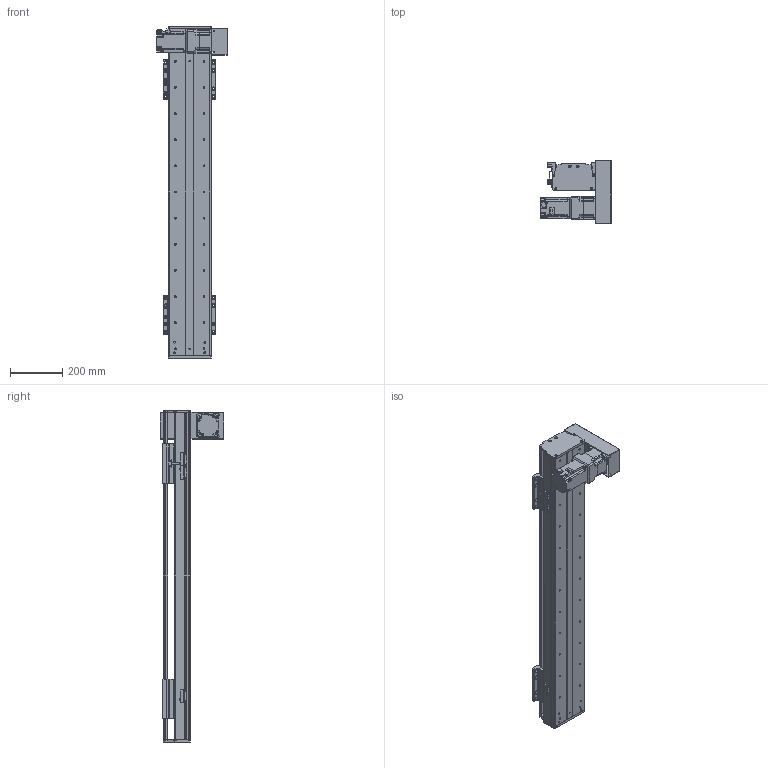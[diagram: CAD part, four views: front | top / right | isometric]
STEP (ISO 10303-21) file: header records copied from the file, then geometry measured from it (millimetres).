
FILE_DESCRIPTION(/* description */ (''),/* implementation_level */ '2;1');
FILE_NAME(/* name */ 'C:\Users\PC\Desktop\3D도면\STEP\새 폴더\DSB165-DR7G-W0900-L.stp',/* time_stamp */ '2018-06-25T15:57:38+09:00',/* author */ ('PC'),/* organization */ (''),/* preprocessor_version */ 'ST-DEVELOPER v16.5',/* originating_system */ 'Autodesk Inventor 2017',/* authorisation */ '');
FILE_SCHEMA (('AUTOMOTIVE_DESIGN { 1 0 10303 214 3 1 1 }'));
Length unit declared in the file: millimetre
Products named in the file (12): DSB165-DL7G-W0900-R_MIR; DSB165-BASE-L_MIR; hg-kr73__MIR; ab0901-p0401300102_MIR; 11-DSB165 BELT COVER_MIR; 12-DSB165-REAR COVER_MIR; 14-DSB165-FRONT COVER_MIR; DSB165-UP COVER_MIR; DSB165-TABLE(MSB20S)_MIR; DSR165-SENSOR DOG_MIR; SENSOR BRACKET(EE-SX674A)_MIR; pm-y65_step_MIR
Assembly tree (16 placements, depth 2):
  DSB165-DL7G-W0900-R_MIR
    DSB165-BASE-L_MIR
    hg-kr73__MIR
    ab0901-p0401300102_MIR
    11-DSB165 BELT COVER_MIR
    12-DSB165-REAR COVER_MIR
    14-DSB165-FRONT COVER_MIR
    DSB165-UP COVER_MIR
    DSB165-TABLE(MSB20S)_MIR  x2
    DSR165-SENSOR DOG_MIR
    pm-y65_step_MIR  x3
    SENSOR BRACKET(EE-SX674A)_MIR  x3
Bounding box: 270 x 242 x 1270 mm (x, y, z)
Volume: 8411017.4 mm3; surface area: 1944489.5 mm2
Topology: 17 solids, 17 shells, 1661 faces, 4464 edges, 2942 vertices
Faces by surface type: plane 921, cylinder 616, cone 112, sphere 8, torus 4
Full cylindrical faces by diameter (mm): 2.459 x20, 3.5 x6, 4.134 x42, 4.5 x18, 5 x27, 5.5 x36, 5.9 x4, 6 x4, 6.6 x14, 6.647 x40, 6.8 x1, 7 x4, 7.6 x4, 8.4 x1, 8.5 x24, 8.7 x1, 9.5 x32, 11 x6, 14 x16, 19 x1, 22 x1, 24 x1, 25 x1, 28 x1, 67 x1, 70 x2, 80 x1
Entity records: 36004 total; most frequent: DIRECTION 6234, CARTESIAN_POINT 6051, ORIENTED_EDGE 5522, EDGE_CURVE 2761, AXIS2_PLACEMENT_3D 2287, VERTEX_POINT 1966, EDGE_LOOP 1719, LINE 1660
